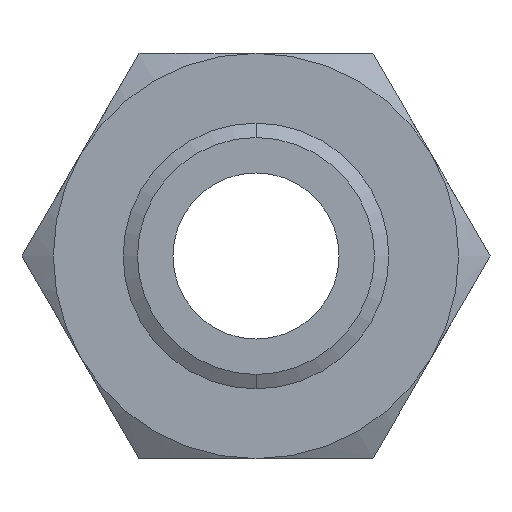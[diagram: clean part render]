
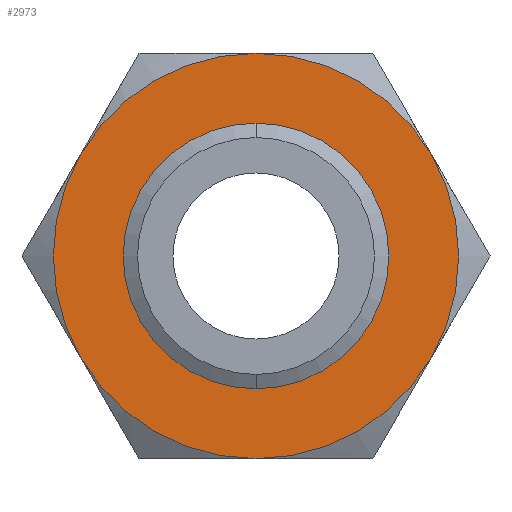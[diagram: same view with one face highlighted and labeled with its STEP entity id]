
A CAD part, front view. The second image highlights one B-rep face of the part: STEP entity #2973.
In plain terms, the highlighted planar face has unit normal (0, -1, 0).
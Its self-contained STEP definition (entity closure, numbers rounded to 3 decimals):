
#1034 = CARTESIAN_POINT ( 'NONE',  ( 67.117, 0., 38.75 ) ) ;
#1036 = CARTESIAN_POINT ( 'NONE',  ( -67.117, 0., 38.75 ) ) ;
#1079 = DIRECTION ( 'NONE',  ( 0., 0., 1. ) ) ;
#1080 = DIRECTION ( 'NONE',  ( 0., 1., 0. ) ) ;
#1081 = CARTESIAN_POINT ( 'NONE',  ( 0., 0., 0. ) ) ;
#1082 = AXIS2_PLACEMENT_3D ( 'NONE', #1081, #1080, #1079 ) ;
#1083 = CIRCLE ( 'NONE', #1082, 77.5 ) ;
#1089 = DIRECTION ( 'NONE',  ( 0., 0., 1. ) ) ;
#1090 = DIRECTION ( 'NONE',  ( 0., 1., 0. ) ) ;
#1091 = CARTESIAN_POINT ( 'NONE',  ( 0., 0., 0. ) ) ;
#1092 = AXIS2_PLACEMENT_3D ( 'NONE', #1091, #1090, #1089 ) ;
#1093 = CIRCLE ( 'NONE', #1092, 77.5 ) ;
#1116 = DIRECTION ( 'NONE',  ( 0., 0., -1. ) ) ;
#1117 = DIRECTION ( 'NONE',  ( 0., -1., 0. ) ) ;
#1118 = CARTESIAN_POINT ( 'NONE',  ( 0., 0., 0. ) ) ;
#1119 = AXIS2_PLACEMENT_3D ( 'NONE', #1118, #1117, #1116 ) ;
#1120 = CIRCLE ( 'NONE', #1119, 45.301 ) ;
#1154 = DIRECTION ( 'NONE',  ( 0., 0., 1. ) ) ;
#1155 = DIRECTION ( 'NONE',  ( 0., 1., 0. ) ) ;
#1156 = CARTESIAN_POINT ( 'NONE',  ( 0., 0., 0. ) ) ;
#1157 = AXIS2_PLACEMENT_3D ( 'NONE', #1156, #1155, #1154 ) ;
#1158 = CIRCLE ( 'NONE', #1157, 77.5 ) ;
#1217 = DIRECTION ( 'NONE',  ( 0., 0., 1. ) ) ;
#1218 = DIRECTION ( 'NONE',  ( 0., 1., 0. ) ) ;
#1219 = CARTESIAN_POINT ( 'NONE',  ( 0., 0., 0. ) ) ;
#1220 = AXIS2_PLACEMENT_3D ( 'NONE', #1219, #1218, #1217 ) ;
#1221 = CIRCLE ( 'NONE', #1220, 77.5 ) ;
#1748 = FACE_BOUND ( 'NONE', #2604, .T. ) ;
#1749 = FACE_OUTER_BOUND ( 'NONE', #2971, .T. ) ;
#1750 = AXIS2_PLACEMENT_3D ( 'NONE', #1810, #1809, #1808 ) ;
#1751 = PLANE ( 'NONE',  #1750 ) ;
#1808 = DIRECTION ( 'NONE',  ( 0., 0., 1. ) ) ;
#1809 = DIRECTION ( 'NONE',  ( 0., 1., 0. ) ) ;
#1810 = CARTESIAN_POINT ( 'NONE',  ( 44.745, 0., -77.5 ) ) ;
#1811 = CARTESIAN_POINT ( 'NONE',  ( 0., 0., 77.5 ) ) ;
#1819 = CARTESIAN_POINT ( 'NONE',  ( 0., 0., -77.5 ) ) ;
#1834 = DIRECTION ( 'NONE',  ( 0., 0., 1. ) ) ;
#1835 = DIRECTION ( 'NONE',  ( 0., 1., 0. ) ) ;
#1836 = CARTESIAN_POINT ( 'NONE',  ( 0., 0., 0. ) ) ;
#1837 = AXIS2_PLACEMENT_3D ( 'NONE', #1836, #1835, #1834 ) ;
#1838 = CIRCLE ( 'NONE', #1837, 77.5 ) ;
#1839 = CARTESIAN_POINT ( 'NONE',  ( 67.117, 0., -38.75 ) ) ;
#1870 = CARTESIAN_POINT ( 'NONE',  ( -67.117, 0., -38.75 ) ) ;
#1883 = DIRECTION ( 'NONE',  ( 0., 0., 1. ) ) ;
#1884 = DIRECTION ( 'NONE',  ( 0., 1., 0. ) ) ;
#1885 = CARTESIAN_POINT ( 'NONE',  ( 0., 0., 0. ) ) ;
#1886 = AXIS2_PLACEMENT_3D ( 'NONE', #1885, #1884, #1883 ) ;
#1890 = CIRCLE ( 'NONE', #1886, 77.5 ) ;
#2003 = CARTESIAN_POINT ( 'NONE',  ( 0., 0., 0. ) ) ;
#2004 = AXIS2_PLACEMENT_3D ( 'NONE', #2003, #2064, #2063 ) ;
#2005 = CIRCLE ( 'NONE', #2004, 45.301 ) ;
#2006 = CARTESIAN_POINT ( 'NONE',  ( 0., 0., -45.301 ) ) ;
#2007 = CARTESIAN_POINT ( 'NONE',  ( 0., 0., 45.301 ) ) ;
#2063 = DIRECTION ( 'NONE',  ( 0., 0., -1. ) ) ;
#2064 = DIRECTION ( 'NONE',  ( 0., -1., 0. ) ) ;
#2575 = VERTEX_POINT ( 'NONE', #1036 ) ;
#2576 = ORIENTED_EDGE ( 'NONE', *, *, #2638, .F. ) ;
#2577 = EDGE_CURVE ( 'NONE', #2575, #2977, #1093, .T. ) ;
#2578 = VERTEX_POINT ( 'NONE', #1034 ) ;
#2582 = EDGE_CURVE ( 'NONE', #2977, #2578, #1083, .T. ) ;
#2584 = ORIENTED_EDGE ( 'NONE', *, *, #2577, .F. ) ;
#2599 = EDGE_CURVE ( 'NONE', #3113, #3114, #1120, .T. ) ;
#2600 = ORIENTED_EDGE ( 'NONE', *, *, #3116, .F. ) ;
#2602 = ORIENTED_EDGE ( 'NONE', *, *, #2599, .F. ) ;
#2604 = EDGE_LOOP ( 'NONE', ( #2600, #2602 ) ) ;
#2605 = ORIENTED_EDGE ( 'NONE', *, *, #2610, .F. ) ;
#2610 = EDGE_CURVE ( 'NONE', #2578, #2990, #1158, .T. ) ;
#2638 = EDGE_CURVE ( 'NONE', #3008, #2575, #1221, .T. ) ;
#2971 = EDGE_LOOP ( 'NONE', ( #2975, #2584, #2576, #3032, #3000, #2605 ) ) ;
#2973 = ADVANCED_FACE ( 'NONE', ( #1749, #1748 ), #1751, .F. ) ;
#2975 = ORIENTED_EDGE ( 'NONE', *, *, #2582, .F. ) ;
#2977 = VERTEX_POINT ( 'NONE', #1811 ) ;
#2990 = VERTEX_POINT ( 'NONE', #1839 ) ;
#2991 = EDGE_CURVE ( 'NONE', #2990, #3005, #1838, .T. ) ;
#3000 = ORIENTED_EDGE ( 'NONE', *, *, #2991, .F. ) ;
#3005 = VERTEX_POINT ( 'NONE', #1819 ) ;
#3008 = VERTEX_POINT ( 'NONE', #1870 ) ;
#3032 = ORIENTED_EDGE ( 'NONE', *, *, #3035, .F. ) ;
#3035 = EDGE_CURVE ( 'NONE', #3005, #3008, #1890, .T. ) ;
#3113 = VERTEX_POINT ( 'NONE', #2007 ) ;
#3114 = VERTEX_POINT ( 'NONE', #2006 ) ;
#3116 = EDGE_CURVE ( 'NONE', #3114, #3113, #2005, .T. ) ;
